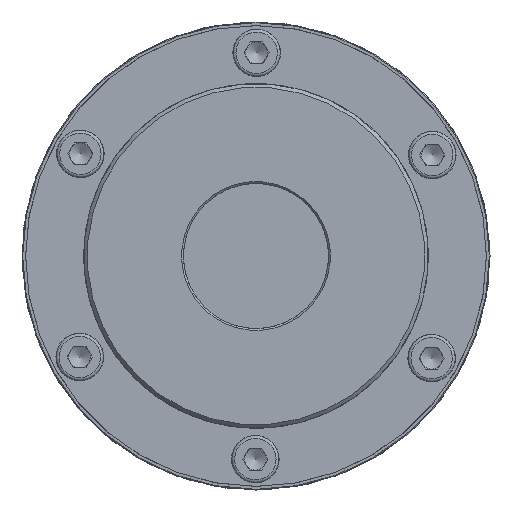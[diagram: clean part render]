
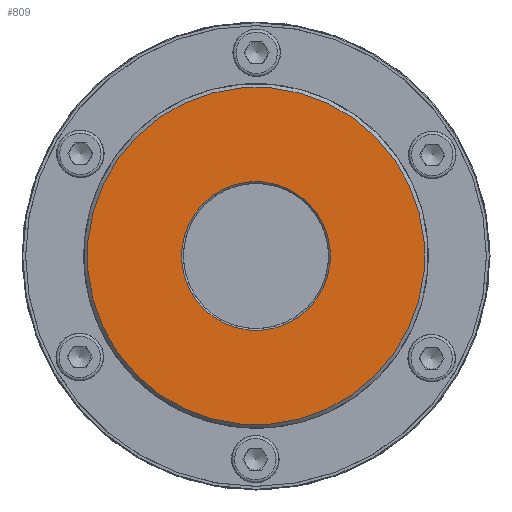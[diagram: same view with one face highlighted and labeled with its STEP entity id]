
A CAD part, left-side view. The second image highlights one B-rep face of the part: STEP entity #809.
In plain terms, the highlighted planar face has unit normal (-1, 0, 0).
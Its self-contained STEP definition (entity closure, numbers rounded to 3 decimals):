
#809 = ADVANCED_FACE( '', ( #1561, #1562 ), #1563, .T. );
#1561 = FACE_OUTER_BOUND( '', #2431, .T. );
#1562 = FACE_BOUND( '', #2432, .T. );
#1563 = PLANE( '', #2433 );
#2431 = EDGE_LOOP( '', ( #4057 ) );
#2432 = EDGE_LOOP( '', ( #4058 ) );
#2433 = AXIS2_PLACEMENT_3D( '', #4059, #4060, #4061 );
#4057 = ORIENTED_EDGE( '', *, *, #5469, .T. );
#4058 = ORIENTED_EDGE( '', *, *, #5470, .T. );
#4059 = CARTESIAN_POINT( '', ( -73.5, 0., 0. ) );
#4060 = DIRECTION( '', ( -1., 0., 0. ) );
#4061 = DIRECTION( '', ( 0., 0., 1. ) );
#5469 = EDGE_CURVE( '', #6413, #6413, #6414, .T. );
#5470 = EDGE_CURVE( '', #6415, #6415, #6416, .F. );
#6413 = VERTEX_POINT( '', #8057 );
#6414 = CIRCLE( '', #8058, 46.5 );
#6415 = VERTEX_POINT( '', #8059 );
#6416 = CIRCLE( '', #8060, 20.5 );
#8057 = CARTESIAN_POINT( '', ( -73.5, -46.5, 0. ) );
#8058 = AXIS2_PLACEMENT_3D( '', #9741, #9742, #9743 );
#8059 = CARTESIAN_POINT( '', ( -73.5, -20.5, 0. ) );
#8060 = AXIS2_PLACEMENT_3D( '', #9744, #9745, #9746 );
#9741 = CARTESIAN_POINT( '', ( -73.5, 0., 0. ) );
#9742 = DIRECTION( '', ( -1., 0., 0. ) );
#9743 = DIRECTION( '', ( 0., -1., 0. ) );
#9744 = CARTESIAN_POINT( '', ( -73.5, 0., 0. ) );
#9745 = DIRECTION( '', ( -1., 0., 0. ) );
#9746 = DIRECTION( '', ( 0., -1., 0. ) );
